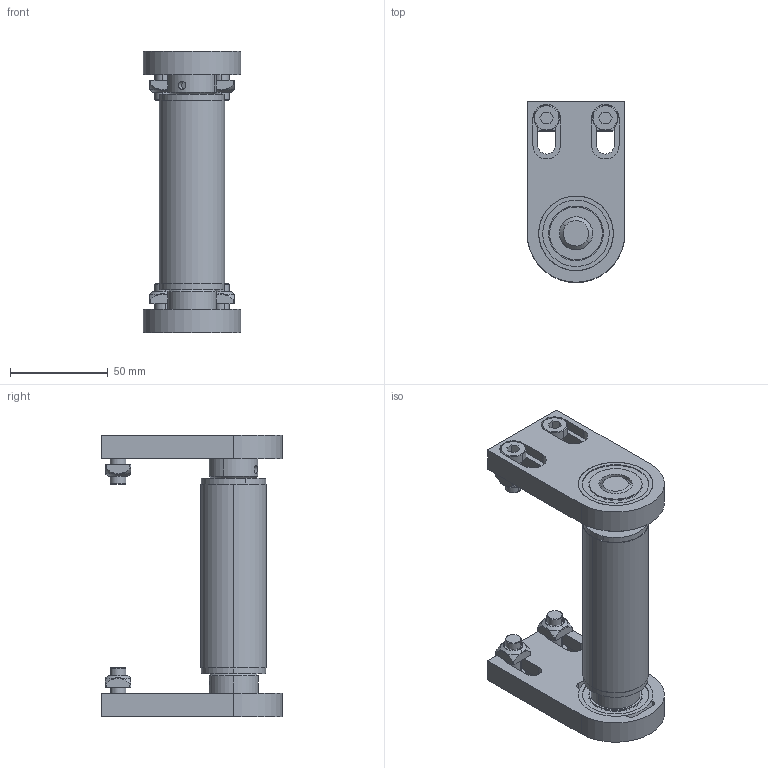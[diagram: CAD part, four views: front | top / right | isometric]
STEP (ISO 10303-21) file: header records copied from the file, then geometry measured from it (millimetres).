
FILE_DESCRIPTION (( 'STEP AP203' ), '1' );
FILE_NAME ('084.050.KSS.100.M.STEP', '2019-07-30T06:49:03', ( '' ), ( '' ), 'SwSTEP 2.0', 'SolidWorks 2018', '' );
FILE_SCHEMA (( 'CONFIG_CONTROL_DESIGN' ));
Length unit declared in the file: millimetre
Products named in the file (8): 084.301.000 VITI ALUSIC_084.301.003; 084.802.013-2; 084.050.KSS.100.M; 084.802.029-100M; 084.802.028; 084.802.014; 084.802.017_084.802.017; 084.302.000 DADI ALUSIC 13x13-1_084.302.004
Assembly tree (17 placements, depth 2):
  084.050.KSS.100.M
    084.802.029-100M
    084.301.000 VITI ALUSIC_084.301.003  x4
    084.302.000 DADI ALUSIC 13x13-1_084.302.004  x4
    084.802.017_084.802.017  x2
    084.802.028  x2
    084.802.014  x2
    084.802.013-2  x2
Bounding box: 50 x 92.5 x 144 mm (x, y, z)
Volume: 180352.4 mm3; surface area: 92407.4 mm2
Topology: 19 solids, 21 shells, 384 faces, 910 edges, 582 vertices
Faces by surface type: plane 142, cylinder 134, torus 52, cone 32, bspline 16, sphere 8
Entity records: 5980 total; most frequent: CARTESIAN_POINT 1263, DIRECTION 820, ORIENTED_EDGE 700, EDGE_CURVE 350, AXIS2_PLACEMENT_3D 339, VERTEX_POINT 224, EDGE_LOOP 182, CIRCLE 170
